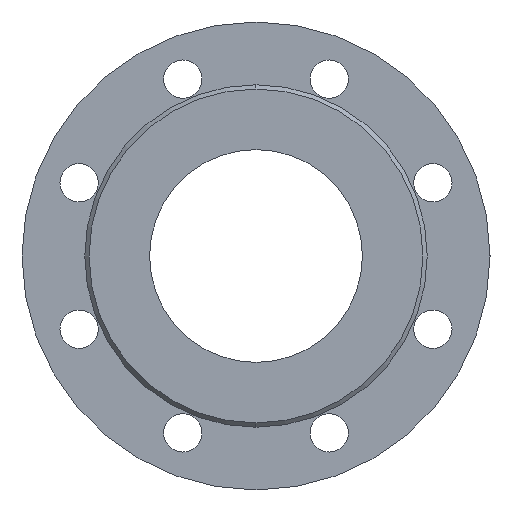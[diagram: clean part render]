
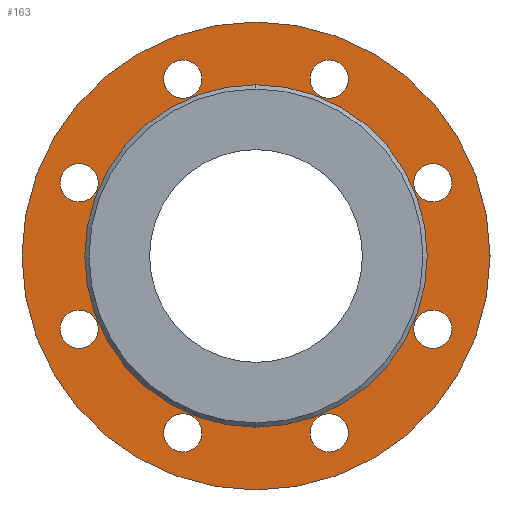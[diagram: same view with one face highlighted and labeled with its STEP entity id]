
A CAD part, left-side view. The second image highlights one B-rep face of the part: STEP entity #163.
In plain terms, the highlighted planar face has unit normal (-1, 0, 0).
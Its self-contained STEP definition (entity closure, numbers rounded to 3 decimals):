
#163=ADVANCED_FACE('',(#343,#344,#345,#346,#347,#348,#349,#350,#351,#352),#353,.F.);
#343=FACE_BOUND('',#605,.T.);
#344=FACE_BOUND('',#606,.T.);
#345=FACE_BOUND('',#607,.T.);
#346=FACE_BOUND('',#608,.T.);
#347=FACE_BOUND('',#609,.T.);
#348=FACE_BOUND('',#610,.T.);
#349=FACE_BOUND('',#611,.T.);
#350=FACE_BOUND('',#612,.T.);
#351=FACE_BOUND('',#613,.T.);
#352=FACE_OUTER_BOUND('',#614,.T.);
#353=PLANE('',#615);
#605=EDGE_LOOP('',(#917,#918));
#606=EDGE_LOOP('',(#919,#920));
#607=EDGE_LOOP('',(#921,#922));
#608=EDGE_LOOP('',(#923,#924));
#609=EDGE_LOOP('',(#925,#926));
#610=EDGE_LOOP('',(#927,#928));
#611=EDGE_LOOP('',(#929,#930));
#612=EDGE_LOOP('',(#931,#932));
#613=EDGE_LOOP('',(#933,#934));
#614=EDGE_LOOP('',(#935,#936));
#615=AXIS2_PLACEMENT_3D('',#937,#938,#939);
#917=ORIENTED_EDGE('',*,*,#1429,.T.);
#918=ORIENTED_EDGE('',*,*,#1379,.T.);
#919=ORIENTED_EDGE('',*,*,#1430,.T.);
#920=ORIENTED_EDGE('',*,*,#1431,.T.);
#921=ORIENTED_EDGE('',*,*,#1432,.T.);
#922=ORIENTED_EDGE('',*,*,#1433,.T.);
#923=ORIENTED_EDGE('',*,*,#1434,.T.);
#924=ORIENTED_EDGE('',*,*,#1397,.T.);
#925=ORIENTED_EDGE('',*,*,#1435,.T.);
#926=ORIENTED_EDGE('',*,*,#1436,.T.);
#927=ORIENTED_EDGE('',*,*,#1410,.T.);
#928=ORIENTED_EDGE('',*,*,#1437,.T.);
#929=ORIENTED_EDGE('',*,*,#1438,.T.);
#930=ORIENTED_EDGE('',*,*,#1439,.T.);
#931=ORIENTED_EDGE('',*,*,#1440,.T.);
#932=ORIENTED_EDGE('',*,*,#1441,.T.);
#933=ORIENTED_EDGE('',*,*,#1442,.T.);
#934=ORIENTED_EDGE('',*,*,#1443,.T.);
#935=ORIENTED_EDGE('',*,*,#1418,.F.);
#936=ORIENTED_EDGE('',*,*,#1444,.F.);
#937=CARTESIAN_POINT('',(2.0,0.0,0.));
#938=DIRECTION('',(1.0,0.0,0.));
#939=DIRECTION('',(0.,0.0,-1.0));
#1379=EDGE_CURVE('',#1618,#1622,#1624,.T.);
#1397=EDGE_CURVE('',#1656,#1654,#1657,.T.);
#1410=EDGE_CURVE('',#1671,#1675,#1677,.T.);
#1418=EDGE_CURVE('',#1688,#1691,#1692,.T.);
#1429=EDGE_CURVE('',#1622,#1618,#1708,.T.);
#1430=EDGE_CURVE('',#1709,#1710,#1711,.T.);
#1431=EDGE_CURVE('',#1710,#1709,#1712,.T.);
#1432=EDGE_CURVE('',#1713,#1714,#1715,.T.);
#1433=EDGE_CURVE('',#1714,#1713,#1716,.T.);
#1434=EDGE_CURVE('',#1654,#1656,#1717,.T.);
#1435=EDGE_CURVE('',#1718,#1719,#1720,.T.);
#1436=EDGE_CURVE('',#1719,#1718,#1721,.T.);
#1437=EDGE_CURVE('',#1675,#1671,#1722,.T.);
#1438=EDGE_CURVE('',#1723,#1724,#1725,.T.);
#1439=EDGE_CURVE('',#1724,#1723,#1726,.T.);
#1440=EDGE_CURVE('',#1727,#1728,#1729,.T.);
#1441=EDGE_CURVE('',#1728,#1727,#1730,.T.);
#1442=EDGE_CURVE('',#1731,#1732,#1733,.T.);
#1443=EDGE_CURVE('',#1732,#1731,#1734,.T.);
#1444=EDGE_CURVE('',#1691,#1688,#1735,.T.);
#1618=VERTEX_POINT('',#1953);
#1622=VERTEX_POINT('',#1958);
#1624=CIRCLE('',#1961,50.0);
#1654=VERTEX_POINT('',#1995);
#1656=VERTEX_POINT('',#1998);
#1657=CIRCLE('',#1999,9.0);
#1671=VERTEX_POINT('',#2016);
#1675=VERTEX_POINT('',#2021);
#1677=CIRCLE('',#2024,9.0);
#1688=VERTEX_POINT('',#2037);
#1691=VERTEX_POINT('',#2041);
#1692=CIRCLE('',#2042,110.0);
#1708=CIRCLE('',#2061,50.0);
#1709=VERTEX_POINT('',#2062);
#1710=VERTEX_POINT('',#2063);
#1711=CIRCLE('',#2064,9.0);
#1712=CIRCLE('',#2065,9.0);
#1713=VERTEX_POINT('',#2066);
#1714=VERTEX_POINT('',#2067);
#1715=CIRCLE('',#2068,9.0);
#1716=CIRCLE('',#2069,9.0);
#1717=CIRCLE('',#2070,9.0);
#1718=VERTEX_POINT('',#2071);
#1719=VERTEX_POINT('',#2072);
#1720=CIRCLE('',#2073,9.0);
#1721=CIRCLE('',#2074,9.0);
#1722=CIRCLE('',#2075,9.0);
#1723=VERTEX_POINT('',#2076);
#1724=VERTEX_POINT('',#2077);
#1725=CIRCLE('',#2078,9.0);
#1726=CIRCLE('',#2079,9.0);
#1727=VERTEX_POINT('',#2080);
#1728=VERTEX_POINT('',#2081);
#1729=CIRCLE('',#2082,9.0);
#1730=CIRCLE('',#2083,9.0);
#1731=VERTEX_POINT('',#2084);
#1732=VERTEX_POINT('',#2085);
#1733=CIRCLE('',#2086,9.0);
#1734=CIRCLE('',#2087,9.0);
#1735=CIRCLE('',#2088,110.0);
#1953=CARTESIAN_POINT('',(2.0,0.,-50.0));
#1958=CARTESIAN_POINT('',(2.0,0.,50.0));
#1961=AXIS2_PLACEMENT_3D('',#2326,#2327,#2328);
#1995=CARTESIAN_POINT('',(2.0,-83.149,25.442));
#1998=CARTESIAN_POINT('',(2.0,-83.149,43.442));
#1999=AXIS2_PLACEMENT_3D('',#2358,#2359,#2360);
#2016=CARTESIAN_POINT('',(2.0,83.149,25.442));
#2021=CARTESIAN_POINT('',(2.0,83.149,43.442));
#2024=AXIS2_PLACEMENT_3D('',#2375,#2376,#2377);
#2037=CARTESIAN_POINT('',(2.,0.0,-110.0));
#2041=CARTESIAN_POINT('',(2.,0.,110.0));
#2042=AXIS2_PLACEMENT_3D('',#2387,#2388,#2389);
#2061=AXIS2_PLACEMENT_3D('',#2405,#2406,#2407);
#2062=CARTESIAN_POINT('',(2.0,83.149,-43.442));
#2063=CARTESIAN_POINT('',(2.0,83.149,-25.442));
#2064=AXIS2_PLACEMENT_3D('',#2408,#2409,#2410);
#2065=AXIS2_PLACEMENT_3D('',#2411,#2412,#2413);
#2066=CARTESIAN_POINT('',(2.0,34.442,-92.149));
#2067=CARTESIAN_POINT('',(2.0,34.442,-74.149));
#2068=AXIS2_PLACEMENT_3D('',#2414,#2415,#2416);
#2069=AXIS2_PLACEMENT_3D('',#2417,#2418,#2419);
#2070=AXIS2_PLACEMENT_3D('',#2420,#2421,#2422);
#2071=CARTESIAN_POINT('',(2.0,-34.442,74.149));
#2072=CARTESIAN_POINT('',(2.,-34.442,92.149));
#2073=AXIS2_PLACEMENT_3D('',#2423,#2424,#2425);
#2074=AXIS2_PLACEMENT_3D('',#2426,#2427,#2428);
#2075=AXIS2_PLACEMENT_3D('',#2429,#2430,#2431);
#2076=CARTESIAN_POINT('',(2.0,34.442,74.149));
#2077=CARTESIAN_POINT('',(2.,34.442,92.149));
#2078=AXIS2_PLACEMENT_3D('',#2432,#2433,#2434);
#2079=AXIS2_PLACEMENT_3D('',#2435,#2436,#2437);
#2080=CARTESIAN_POINT('',(2.0,-83.149,-43.442));
#2081=CARTESIAN_POINT('',(2.0,-83.149,-25.442));
#2082=AXIS2_PLACEMENT_3D('',#2438,#2439,#2440);
#2083=AXIS2_PLACEMENT_3D('',#2441,#2442,#2443);
#2084=CARTESIAN_POINT('',(2.0,-34.442,-92.149));
#2085=CARTESIAN_POINT('',(2.0,-34.442,-74.149));
#2086=AXIS2_PLACEMENT_3D('',#2444,#2445,#2446);
#2087=AXIS2_PLACEMENT_3D('',#2447,#2448,#2449);
#2088=AXIS2_PLACEMENT_3D('',#2450,#2451,#2452);
#2326=CARTESIAN_POINT('',(2.0,0.0,0.));
#2327=DIRECTION('',(1.0,0.0,0.));
#2328=DIRECTION('',(0.,0.0,-1.0));
#2358=CARTESIAN_POINT('',(2.0,-83.149,34.442));
#2359=DIRECTION('',(1.0,0.0,0.));
#2360=DIRECTION('',(0.,0.0,-1.0));
#2375=CARTESIAN_POINT('',(2.0,83.149,34.442));
#2376=DIRECTION('',(1.0,0.0,0.));
#2377=DIRECTION('',(0.,0.0,-1.0));
#2387=CARTESIAN_POINT('',(2.0,0.0,0.));
#2388=DIRECTION('',(1.0,0.0,0.));
#2389=DIRECTION('',(0.,0.0,-1.0));
#2405=CARTESIAN_POINT('',(2.0,0.0,0.));
#2406=DIRECTION('',(1.0,0.0,0.));
#2407=DIRECTION('',(0.,0.0,-1.0));
#2408=CARTESIAN_POINT('',(2.0,83.149,-34.442));
#2409=DIRECTION('',(1.0,0.0,0.));
#2410=DIRECTION('',(0.,0.0,-1.0));
#2411=CARTESIAN_POINT('',(2.0,83.149,-34.442));
#2412=DIRECTION('',(1.0,0.0,0.));
#2413=DIRECTION('',(0.,0.0,-1.0));
#2414=CARTESIAN_POINT('',(2.0,34.442,-83.149));
#2415=DIRECTION('',(1.0,0.0,0.));
#2416=DIRECTION('',(0.,0.0,-1.0));
#2417=CARTESIAN_POINT('',(2.0,34.442,-83.149));
#2418=DIRECTION('',(1.0,0.0,0.));
#2419=DIRECTION('',(0.,0.0,-1.0));
#2420=CARTESIAN_POINT('',(2.0,-83.149,34.442));
#2421=DIRECTION('',(1.0,0.0,0.));
#2422=DIRECTION('',(0.,0.0,-1.0));
#2423=CARTESIAN_POINT('',(2.,-34.442,83.149));
#2424=DIRECTION('',(1.0,0.0,0.));
#2425=DIRECTION('',(0.,0.0,-1.0));
#2426=CARTESIAN_POINT('',(2.,-34.442,83.149));
#2427=DIRECTION('',(1.0,0.0,0.));
#2428=DIRECTION('',(0.,0.0,-1.0));
#2429=CARTESIAN_POINT('',(2.0,83.149,34.442));
#2430=DIRECTION('',(1.0,0.0,0.));
#2431=DIRECTION('',(0.,0.0,-1.0));
#2432=CARTESIAN_POINT('',(2.,34.442,83.149));
#2433=DIRECTION('',(1.0,0.0,0.));
#2434=DIRECTION('',(0.,0.0,-1.0));
#2435=CARTESIAN_POINT('',(2.,34.442,83.149));
#2436=DIRECTION('',(1.0,0.0,0.));
#2437=DIRECTION('',(0.,0.0,-1.0));
#2438=CARTESIAN_POINT('',(2.0,-83.149,-34.442));
#2439=DIRECTION('',(1.0,0.0,0.));
#2440=DIRECTION('',(0.,0.0,-1.0));
#2441=CARTESIAN_POINT('',(2.0,-83.149,-34.442));
#2442=DIRECTION('',(1.0,0.0,0.));
#2443=DIRECTION('',(0.,0.0,-1.0));
#2444=CARTESIAN_POINT('',(2.0,-34.442,-83.149));
#2445=DIRECTION('',(1.0,0.0,0.));
#2446=DIRECTION('',(0.,0.0,-1.0));
#2447=CARTESIAN_POINT('',(2.0,-34.442,-83.149));
#2448=DIRECTION('',(1.0,0.0,0.));
#2449=DIRECTION('',(0.,0.0,-1.0));
#2450=CARTESIAN_POINT('',(2.0,0.0,0.));
#2451=DIRECTION('',(1.0,0.0,0.));
#2452=DIRECTION('',(0.,0.0,-1.0));
